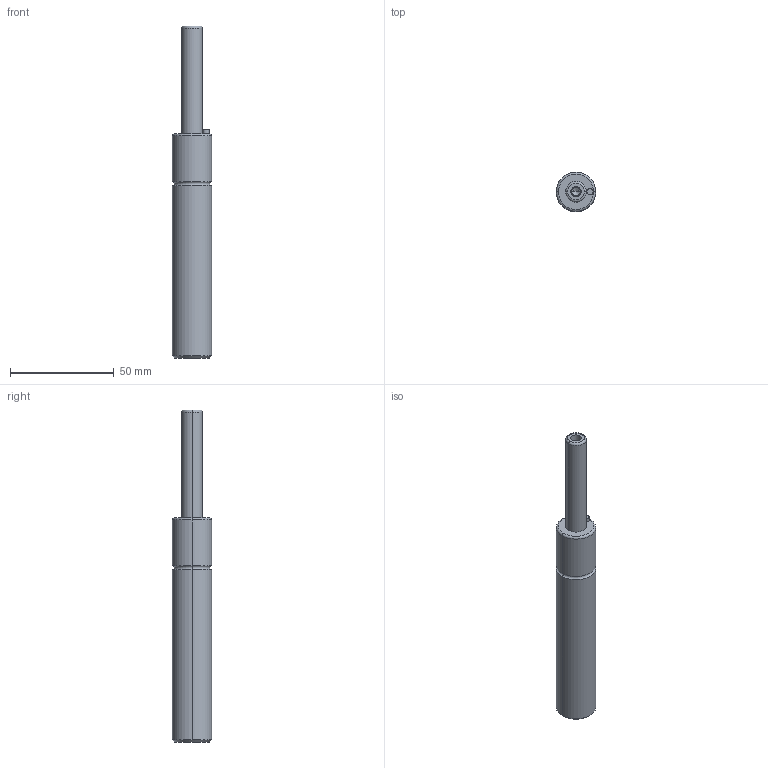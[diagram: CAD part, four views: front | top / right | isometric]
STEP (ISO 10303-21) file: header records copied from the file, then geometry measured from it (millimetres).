
FILE_DESCRIPTION(/* description */ (''),/* implementation_level */ '2;1');
FILE_NAME(/* name */ '3d_gsm19-50_03950_r00.stp',/* time_stamp */ '2011-01-10T14:15:17+09:00',/* author */ ('MISUMI'),/* organization */ (''),/* preprocessor_version */ 'ST-DEVELOPER v11',/* originating_system */ 'UGS - NX 5.0',/* authorisation */ '');
FILE_SCHEMA (('CONFIG_CONTROL_DESIGN'));
Length unit declared in the file: millimetre
Products named in the file (1): 3d_gsm19-50_03950_r00
Bounding box: 19 x 19 x 160 mm (x, y, z)
Volume: 34141.6 mm3; surface area: 8964.1 mm2
Topology: 1 solids, 1 shells, 34 faces, 70 edges, 40 vertices
Faces by surface type: cylinder 16, cone 6, plane 6, torus 6
Entity records: 964 total; most frequent: DIRECTION 180, CARTESIAN_POINT 141, ORIENTED_EDGE 132, AXIS2_PLACEMENT_3D 79, EDGE_CURVE 66, CIRCLE 44, EDGE_LOOP 40, VERTEX_POINT 40
